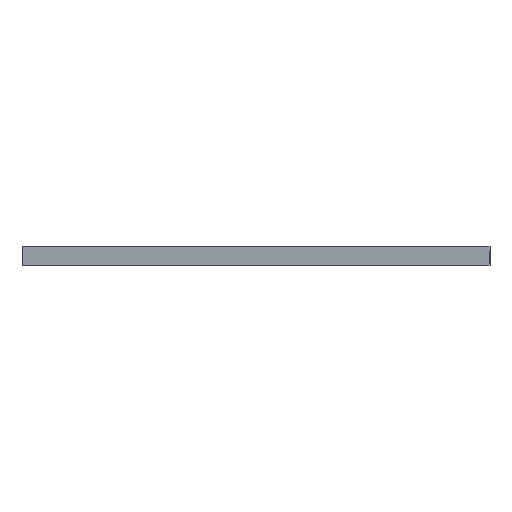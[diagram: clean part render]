
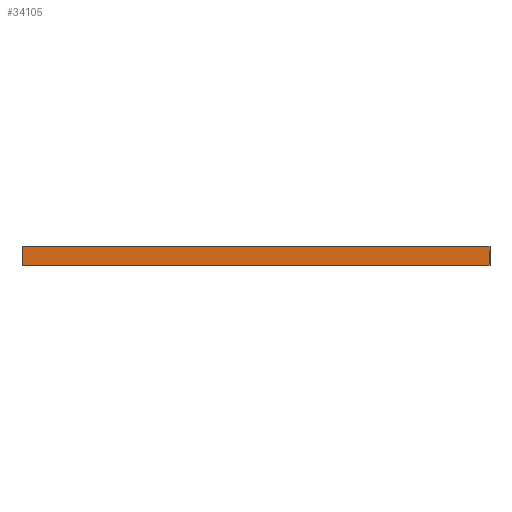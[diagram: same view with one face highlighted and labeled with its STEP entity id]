
A CAD part, front view. The second image highlights one B-rep face of the part: STEP entity #34105.
In plain terms, the highlighted planar face has unit normal (0, -1, 0).
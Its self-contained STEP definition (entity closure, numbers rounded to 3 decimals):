
#1376 = DIRECTION ( 'NONE',  ( 0., 1., 0. ) ) ;
#3015 = CARTESIAN_POINT ( 'NONE',  ( 0., -100., 0.5 ) ) ;
#4365 = VERTEX_POINT ( 'NONE', #42753 ) ;
#6803 = DIRECTION ( 'NONE',  ( -1., 0., 0. ) ) ;
#7855 = PLANE ( 'NONE',  #22612 ) ;
#18006 = ORIENTED_EDGE ( 'NONE', *, *, #20020, .F. ) ;
#18506 = LINE ( 'NONE', #67298, #56351 ) ;
#18786 = VECTOR ( 'NONE', #43761, 1000. ) ;
#20020 = EDGE_CURVE ( 'NONE', #49666, #48991, #49903, .T. ) ;
#22049 = CARTESIAN_POINT ( 'NONE',  ( -12., -100., 0.5 ) ) ;
#22612 = AXIS2_PLACEMENT_3D ( 'NONE', #62743, #1376, #6803 ) ;
#24273 = DIRECTION ( 'NONE',  ( 0., 0., -1. ) ) ;
#25593 = CARTESIAN_POINT ( 'NONE',  ( -12., -100., 0. ) ) ;
#26759 = DIRECTION ( 'NONE',  ( 0., 0., -1. ) ) ;
#31406 = ORIENTED_EDGE ( 'NONE', *, *, #43220, .F. ) ;
#32246 = ORIENTED_EDGE ( 'NONE', *, *, #42587, .T. ) ;
#32542 = LINE ( 'NONE', #22049, #43579 ) ;
#33663 = CARTESIAN_POINT ( 'NONE',  ( -12., -100., 0.5 ) ) ;
#34105 = ADVANCED_FACE ( 'NONE', ( #62392 ), #7855, .F. ) ;
#35071 = CARTESIAN_POINT ( 'NONE',  ( -12., -100., 0. ) ) ;
#42587 = EDGE_CURVE ( 'NONE', #49666, #58454, #32542, .T. ) ;
#42753 = CARTESIAN_POINT ( 'NONE',  ( 0., -100., 0. ) ) ;
#43220 = EDGE_CURVE ( 'NONE', #48991, #4365, #18506, .T. ) ;
#43579 = VECTOR ( 'NONE', #26759, 1000. ) ;
#43761 = DIRECTION ( 'NONE',  ( 1., 0., 0. ) ) ;
#45041 = EDGE_LOOP ( 'NONE', ( #56343, #31406, #18006, #32246 ) ) ;
#45894 = DIRECTION ( 'NONE',  ( 1., 0., 0. ) ) ;
#48991 = VERTEX_POINT ( 'NONE', #3015 ) ;
#49666 = VERTEX_POINT ( 'NONE', #68576 ) ;
#49903 = LINE ( 'NONE', #33663, #18786 ) ;
#56343 = ORIENTED_EDGE ( 'NONE', *, *, #66037, .T. ) ;
#56351 = VECTOR ( 'NONE', #24273, 1000. ) ;
#58454 = VERTEX_POINT ( 'NONE', #25593 ) ;
#59662 = VECTOR ( 'NONE', #45894, 1000. ) ;
#62167 = LINE ( 'NONE', #35071, #59662 ) ;
#62392 = FACE_OUTER_BOUND ( 'NONE', #45041, .T. ) ;
#62743 = CARTESIAN_POINT ( 'NONE',  ( -12., -100., 0.5 ) ) ;
#66037 = EDGE_CURVE ( 'NONE', #58454, #4365, #62167, .T. ) ;
#67298 = CARTESIAN_POINT ( 'NONE',  ( 0., -100., 0.5 ) ) ;
#68576 = CARTESIAN_POINT ( 'NONE',  ( -12., -100., 0.5 ) ) ;
